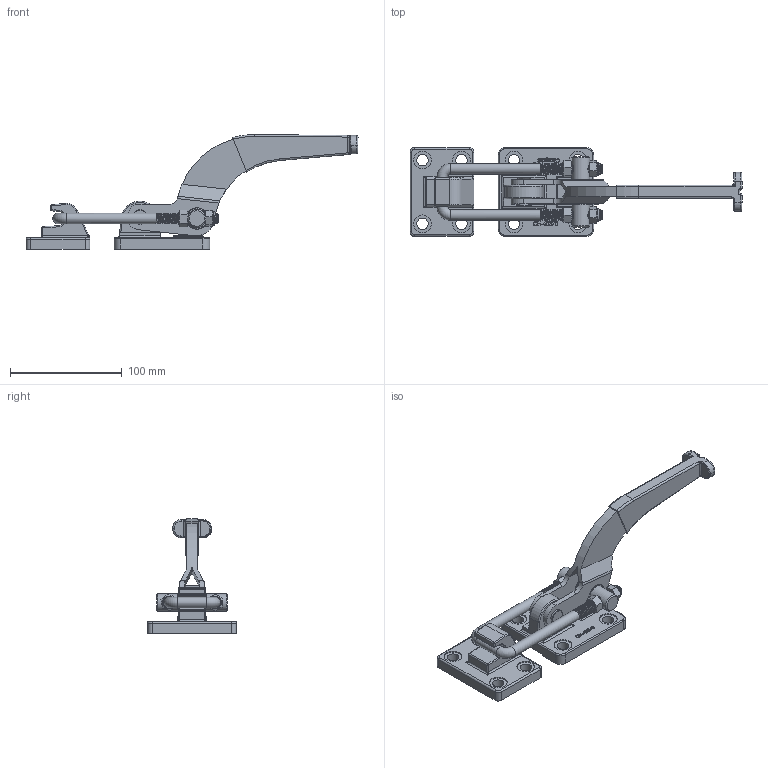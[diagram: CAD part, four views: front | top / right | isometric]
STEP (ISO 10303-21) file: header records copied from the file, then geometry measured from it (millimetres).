
FILE_DESCRIPTION(/* description */ ('STEP AP203'),/* implementation_level */ '2;1');
FILE_NAME(/* name */ 'D:\Vault_2016\Projekty\Clamptek\STRONA\Latch type clamp\CH-40370\CH-40370.stp',/* time_stamp */ '2019-01-11T16:32:00+01:00',/* author */ ('Łukasz'),/* organization */ ('Î¢ÈíÖÐ¹ú'),/* preprocessor_version */ 'ST-DEVELOPER v17.2',/* originating_system */ 'Autodesk Inventor 2019',/* authorisation */ '');
FILE_SCHEMA (('AUTOMOTIVE_DESIGN { 1 0 10303 214 3 1 1 }'));
Products named in the file (11): CH-40370; 40370-01_Ä¬ÈÏ; 40370-08_Ä¬ÈÏ; 40370-06_Ä¬ÈÏ; 40370-02_Ä¬ÈÏ; 40370-03_Ä¬ÈÏ; 3-8-16ÂÝÄ¸_Ä¬ÈÏ; 40370-05_Ä¬ÈÏ; 40370-04_Ä¬ÈÏ; 3-8·ÀËÉÂÝÄ¸_Ä¬
ÈÏ; 40370-07_Ä¬ÈÏ
Assembly tree (12 placements, depth 2):
  CH-40370
    40370-01_Ä¬ÈÏ
    40370-08_Ä¬ÈÏ
    40370-06_Ä¬ÈÏ
    40370-02_Ä¬ÈÏ
    3-8·ÀËÉÂÝÄ¸_Ä¬
ÈÏ  x2
    40370-03_Ä¬ÈÏ
    3-8-16ÂÝÄ¸_Ä¬ÈÏ  x2
    40370-05_Ä¬ÈÏ
    40370-04_Ä¬ÈÏ
    40370-07_Ä¬ÈÏ
Bounding box: 297.37 x 79.4 x 102.7 mm (x, y, z)
Volume: 241715.8 mm3; surface area: 84753.9 mm2
Topology: 12 solids, 12 shells, 1764 faces, 4760 edges, 3046 vertices
Faces by surface type: plane 883, cylinder 578, bspline 212, cone 44, torus 33, sphere 14
Full cylindrical faces by diameter (mm): 1.99 x1, 2.253 x1, 8.5 x16, 9.5 x73, 10 x2, 10.3 x8, 12 x2, 13 x1, 15.8 x1, 15.9 x1, 16 x9, 16.2 x2, 19 x2
Entity records: 91928 total; most frequent: CARTESIAN_POINT 49184, ORIENTED_EDGE 9214, DIRECTION 8432, EDGE_CURVE 4607, VERTEX_POINT 2953, AXIS2_PLACEMENT_3D 2942, LINE 2548, VECTOR 2548
